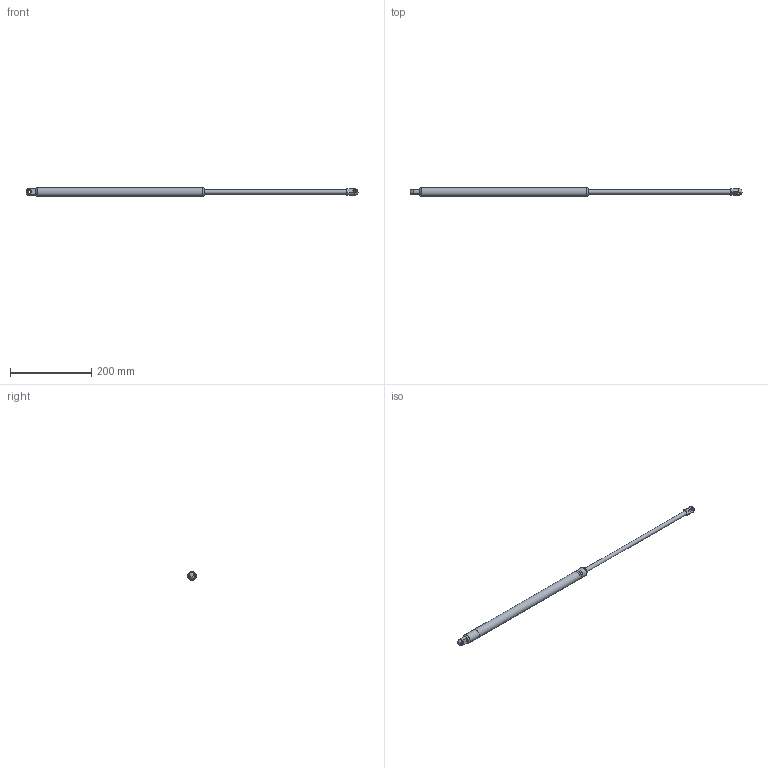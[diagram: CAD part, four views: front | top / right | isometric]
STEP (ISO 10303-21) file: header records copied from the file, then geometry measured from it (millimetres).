
FILE_DESCRIPTION(/* description */ ('STEP AP214'),/* implementation_level */ '2;1');
FILE_NAME(/* name */ 'C:\Users\marco.dallariva\Desktop\Molle a Gas\A1A142350800.800.stp',/* time_stamp */ '2022-06-13T17:20:29+02:00',/* author */ ('marco.dallariva'),/* organization */ ('CADENAS'),/* preprocessor_version */ 'ST-DEVELOPER v18.1',/* originating_system */ 'Autodesk Inventor 2021',/* authorisation */ ' ');
FILE_SCHEMA (('AUTOMOTIVE_DESIGN { 1 0 10303 214 3 1 1 }'));
Length unit declared in the file: millimetre
Products named in the file (5): Bansbach+A1A1-42-350-800--0XX_800N(018); _-10_22(3501018A1); _A1-10_22(3501018); _A110AK; _A122AZ
Assembly tree (4 placements, depth 2):
  Bansbach+A1A1-42-350-800--0XX_800N(018)
    _-10_22(3501018A1)
    _A1-10_22(3501018)
    _A110AK
    _A122AZ
Bounding box: 816.5 x 22 x 22 mm (x, y, z)
Volume: 82538.5 mm3; surface area: 69177.3 mm2
Topology: 4 solids, 4 shells, 50 faces, 104 edges, 67 vertices
Faces by surface type: plane 19, cylinder 16, cone 11, torus 2, sphere 2
Full cylindrical faces by diameter (mm): 8 x1, 8.2 x2, 8.376 x1, 8.4 x1, 10 x2, 16.8 x1, 17 x1, 17.8 x1, 19.8 x3, 22 x1
Entity records: 1582 total; most frequent: DIRECTION 277, CARTESIAN_POINT 235, ORIENTED_EDGE 202, AXIS2_PLACEMENT_3D 121, EDGE_CURVE 101, VERTEX_POINT 67, EDGE_LOOP 62, CIRCLE 62
